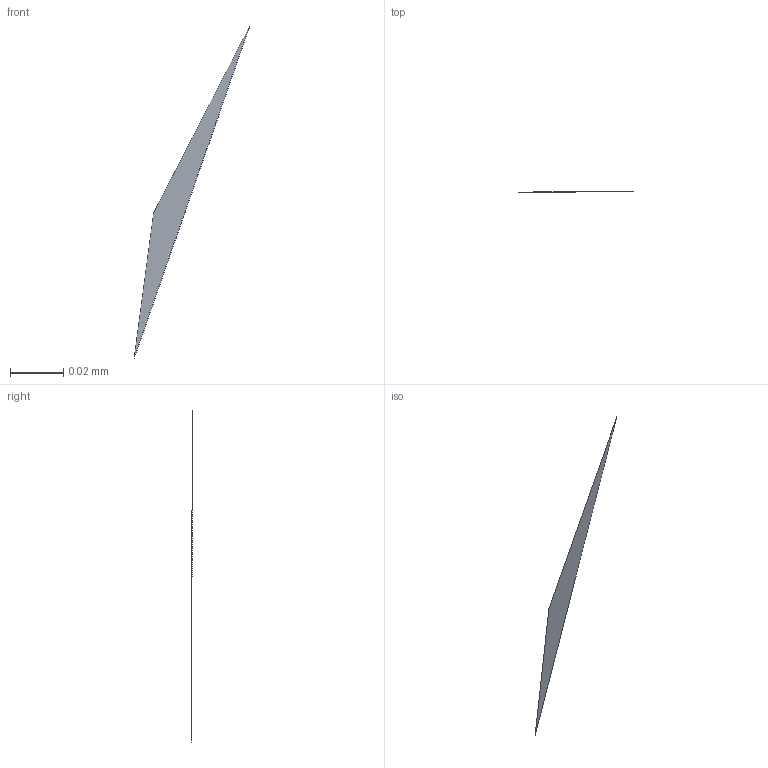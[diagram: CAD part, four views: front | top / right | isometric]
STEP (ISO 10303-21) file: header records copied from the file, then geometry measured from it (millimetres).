
FILE_DESCRIPTION(/* description */ ('STEP AP242 Edition 2','CAx-IF Rec.Pracs.---Representation and Presentation of Product Manufacturing Information (PMI)---4.0---2014-10-13','CAx-IF Rec.Pracs.---3D Tessellated Geometry---0.4---2014-09-14','2;1','CAx-IF Rec.Pracs.---User Defined Attributes---1.5---2016-08-15'),/* implementation_level */ '2;1');
FILE_NAME(/* name */ 'Assembly 1 - Part 54',/* time_stamp */ '2026-03-29T21:14:58Z',/* author */ (''),/* organization */ (''),/* preprocessor_version */ 'ST-DEVELOPER v20',/* originating_system */ 'ONSHAPE BY PTC INC, 1.212',/* authorisation */ ' ');
FILE_SCHEMA (('AP242_MANAGED_MODEL_BASED_3D_ENGINEERING_MIM_LF { 1 0 10303 442 3 1 4 }'));
Length unit declared in the file: metre
Products named in the file (1): Part 54
Bounding box: 0.04 x 0 x 0.12 mm (x, y, z)
Surface area: 0 mm2 (no closed solid volume)
Topology: 0 solids, 1 shells, 1 faces, 0 edges, 0 vertices
Faces by surface type: other 1
Entity records: 31 total; most frequent: DIRECTION 2, SHAPE_REPRESENTATION_RELATIONSHIP 1, TESSELLATED_SHAPE_REPRESENTATION 1, STYLED_ITEM 1, PRESENTATION_STYLE_ASSIGNMENT 1, SURFACE_STYLE_USAGE 1, SURFACE_SIDE_STYLE 1, SURFACE_STYLE_FILL_AREA 1
